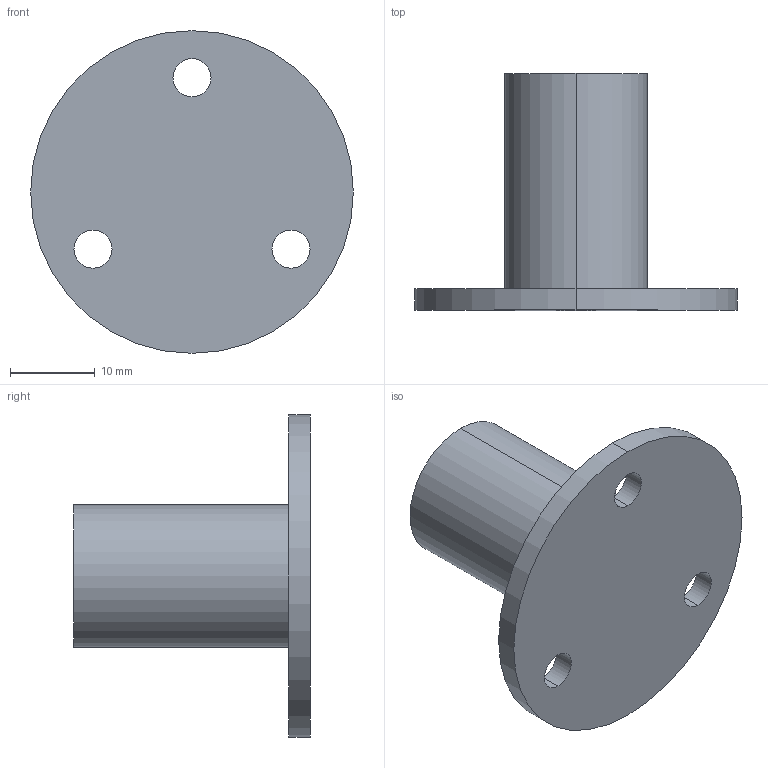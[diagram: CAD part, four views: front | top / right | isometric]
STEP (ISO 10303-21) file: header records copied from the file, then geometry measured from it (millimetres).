
FILE_DESCRIPTION (( 'STEP AP214' ), '1' );
FILE_NAME ('DRP-002-0103-01.STEP', '2010-08-12T14:31:12', ( '' ), ( '' ), 'SwSTEP 2.0', 'SolidWorks 2010', '' );
FILE_SCHEMA (( 'AUTOMOTIVE_DESIGN' ));
Length unit declared in the file: inch
Products named in the file (1): DRP-002-0103-01
Bounding box: 38.1 x 27.94 x 38.1 mm (x, y, z)
Volume: 5430.3 mm3; surface area: 4891.2 mm2
Topology: 1 solids, 1 shells, 16 faces, 36 edges, 24 vertices
Faces by surface type: cylinder 12, plane 4
Entity records: 516 total; most frequent: DIRECTION 94, CARTESIAN_POINT 77, ORIENTED_EDGE 72, AXIS2_PLACEMENT_3D 41, EDGE_CURVE 36, CIRCLE 24, VERTEX_POINT 24, EDGE_LOOP 24
